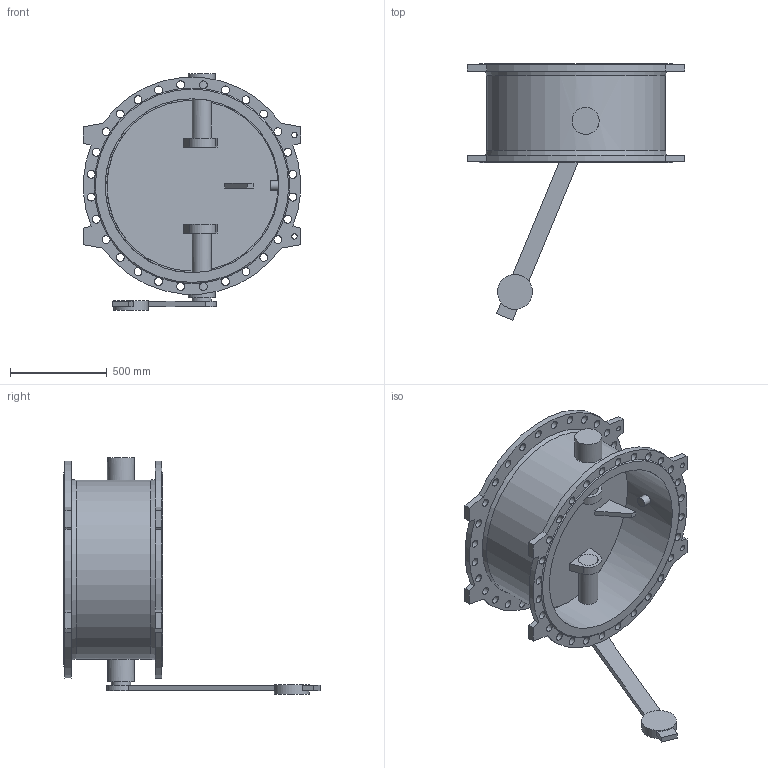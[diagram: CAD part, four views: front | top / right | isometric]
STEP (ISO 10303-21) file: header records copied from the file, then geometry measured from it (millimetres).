
FILE_DESCRIPTION(('STEP AP203'), '1');
FILE_NAME('Êëàïàí 015F.PV DN900 PN16 ñ ïðîòèâîâåñîì', '', ('UNSPECIFIED'), ('UNSPECIFIED'), 'ASCON STEP Converter 1.6', 'ASCON Math Kernel', '');
FILE_SCHEMA(('CONFIG_CONTROL_DESIGN'));
Length unit declared in the file: millimetre
Bounding box: 1125 x 1325 x 1225 mm (x, y, z)
Volume: 60148309.2 mm3; surface area: 6539561.4 mm2
Topology: 1 solids, 1 shells, 152 faces, 569 edges, 378 vertices
Faces by surface type: cylinder 82, plane 63, cone 4, extrusion 2, bspline 1
Full cylindrical faces by diameter (mm): 28 x4, 41 x56, 50 x1, 100 x3, 102 x2, 140 x2, 180 x1, 900 x1, 926 x1
Entity records: 11112 total; most frequent: CARTESIAN_POINT 5017, DIRECTION 998, ORIENTED_EDGE 974, EDGE_CURVE 487, AXIS2_PLACEMENT_3D 433, VERTEX_POINT 377, EDGE_LOOP 318, CIRCLE 283
